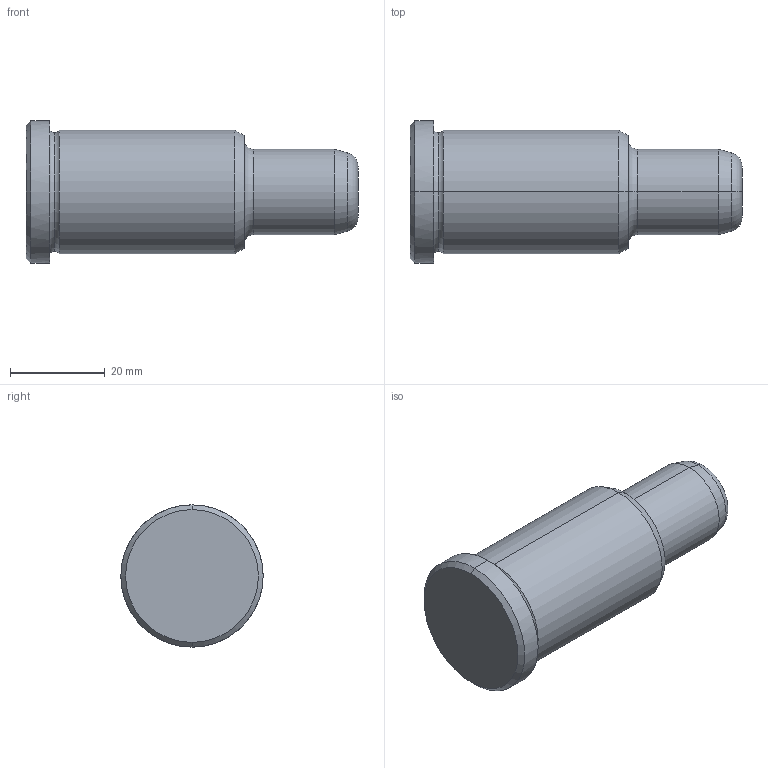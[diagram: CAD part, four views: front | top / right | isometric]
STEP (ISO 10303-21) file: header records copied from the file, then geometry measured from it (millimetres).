
FILE_DESCRIPTION(('CATIA V5 STEP Exchange'),'2;1');
FILE_NAME('C:\Users\Utente\Desktop\IO LAVORO\3D X SITO CF\X SITO\PLASTICA\351\351-18X46X70.stp','2021-08-19T12:39:49+00:00',('none'),('none'),'CATIA Version 5 Release 20 GA (IN-10)','CATIA V5 STEP AP203','none');
FILE_SCHEMA(('CONFIG_CONTROL_DESIGN'));
Length unit declared in the file: millimetre
Products named in the file (1): 351-18X46X70
Bounding box: 70 x 30 x 30 mm (x, y, z)
Volume: 31040.3 mm3; surface area: 6318.7 mm2
Topology: 1 solids, 1 shells, 24 faces, 70 edges, 50 vertices
Faces by surface type: torus 8, cone 6, cylinder 6, plane 4
Entity records: 932 total; most frequent: CARTESIAN_POINT 257, ORIENTED_EDGE 140, DIRECTION 110, AXIS2_PLACEMENT_3D 75, EDGE_CURVE 70, CIRCLE 50, VERTEX_POINT 50, EDGE_LOOP 26
